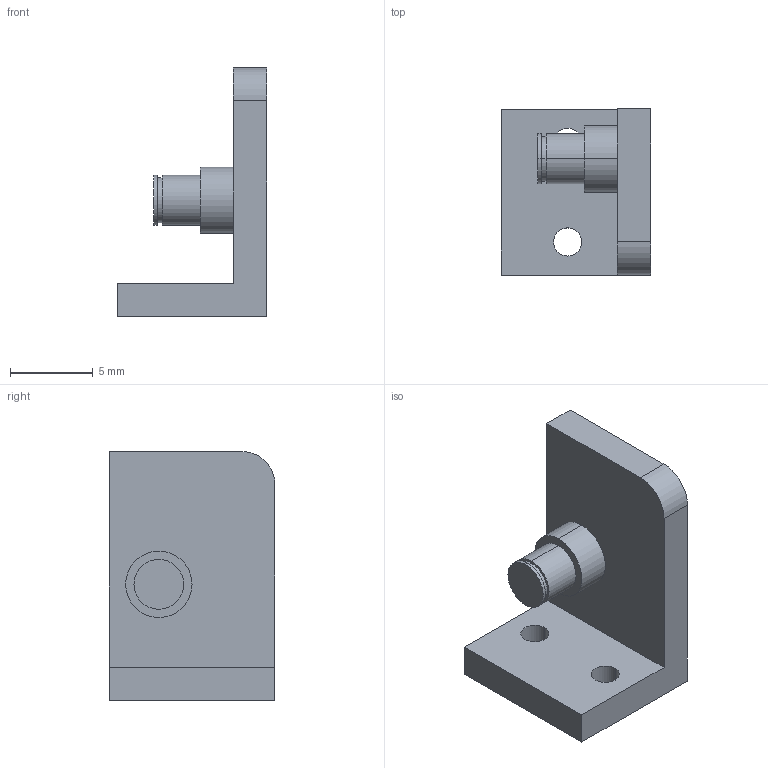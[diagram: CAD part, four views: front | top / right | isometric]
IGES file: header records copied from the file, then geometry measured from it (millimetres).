
Global section: file name: No Iges File Name specified; native system: Autodesk Inventor 2009; preprocessor: AutoDesk Inventor Iges Exporter R2009; author: hide; date: 20090826.065010; units: millimetre
Bounding box: 9 x 10 x 15 mm (x, y, z)
Volume: 473.7 mm3; surface area: 630.8 mm2
Topology: 1 solids, 1 shells, 25 faces, 57 edges, 38 vertices
Faces by surface type: plane 12, cylinder 9, revolution 4
